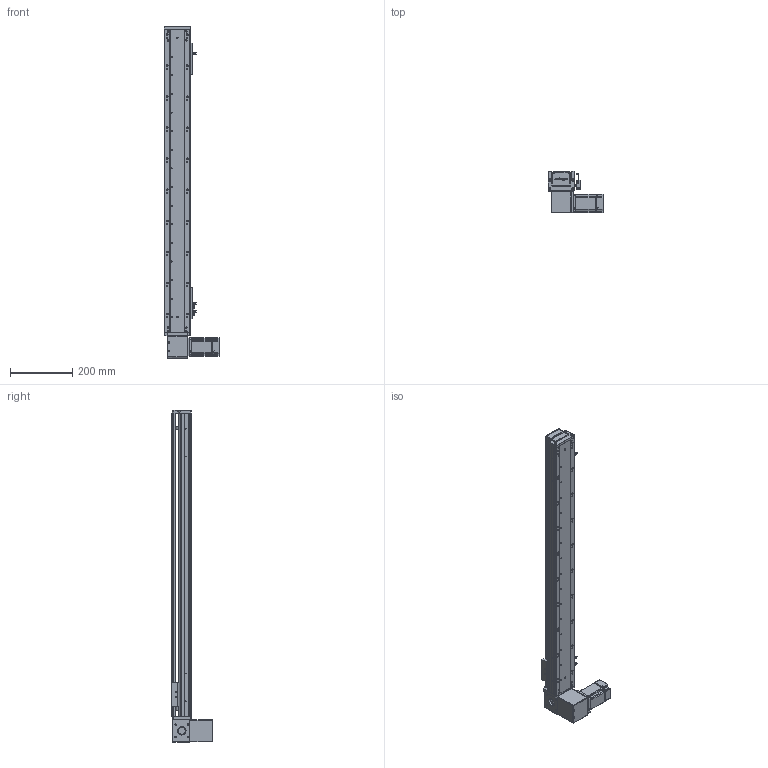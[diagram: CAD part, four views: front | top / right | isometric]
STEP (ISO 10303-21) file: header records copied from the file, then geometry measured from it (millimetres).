
FILE_DESCRIPTION (( 'STEP AP203' ), '1' );
FILE_NAME ('RY80-T-300-DR.SLDASM_800.step', '2021-03-01T01:49:50', ( '盈信电脑' ), ( '东莞市道滘镇水果街19号' ), 'SwSTEP 2.0', 'SolidWorks 2012', '' );
FILE_SCHEMA (( 'CONFIG_CONTROL_DESIGN' ));
Products named in the file (18): RY80-T-M4蹟翐3; 1; RY80-T-300-DR.SLDASM_800; RY80-T萇儂假蚾啣; RY80-T-上下折同步轮盖板; RY80-T肮祭謫狟殏俋欶; RY80-T肮祭湍揤輸1; RY80-T肮祭湍揤輸2; 滅袉蝶18-10; RY80-T翋肮祭謫裔啣; 672嫖萇羲壽假蚾釱; RY80-T-翋肮祭謫釱; RY80俋离覜茼え; 覜茼ん672; RY80-T-300-DR倰第奻裔啣_800; RY80-T綴裔啣; RY80-T肮祭謫臏賑輸; RY80-T-300-DR倰第菁釱_800
Assembly tree (21 placements, depth 2):
  RY80-T-300-DR.SLDASM_800
    RY80-T-300-DR倰第菁釱_800
    RY80-T肮祭謫臏賑輸
    RY80-T-300-DR倰第奻裔啣_800
    RY80-T綴裔啣
    672嫖萇羲壽假蚾釱  x2
    覜茼ん672  x3
    RY80俋离覜茼え
    RY80-T-翋肮祭謫釱
    RY80-T肮祭湍揤輸1
    RY80-T肮祭湍揤輸2
    滅袉蝶18-10  x2
    RY80-T翋肮祭謫裔啣
    RY80-T-上下折同步轮盖板
    RY80-T肮祭謫狟殏俋欶
    RY80-T萇儂假蚾啣
    1
    RY80-T-M4蹟翐3
Bounding box: 180 x 134.5 x 1070 mm (x, y, z)
Volume: 1901066.8 mm3; surface area: 789239 mm2
Topology: 21 solids, 21 shells, 2523 faces, 7007 edges, 4552 vertices
Faces by surface type: plane 1333, cylinder 991, cone 143, bspline 56
Entity records: 81604 total; most frequent: CARTESIAN_POINT 20618, ORIENTED_EDGE 12658, DIRECTION 11720, EDGE_CURVE 6329, VERTEX_POINT 4156, AXIS2_PLACEMENT_3D 3954, VECTOR 3812, LINE 3812
